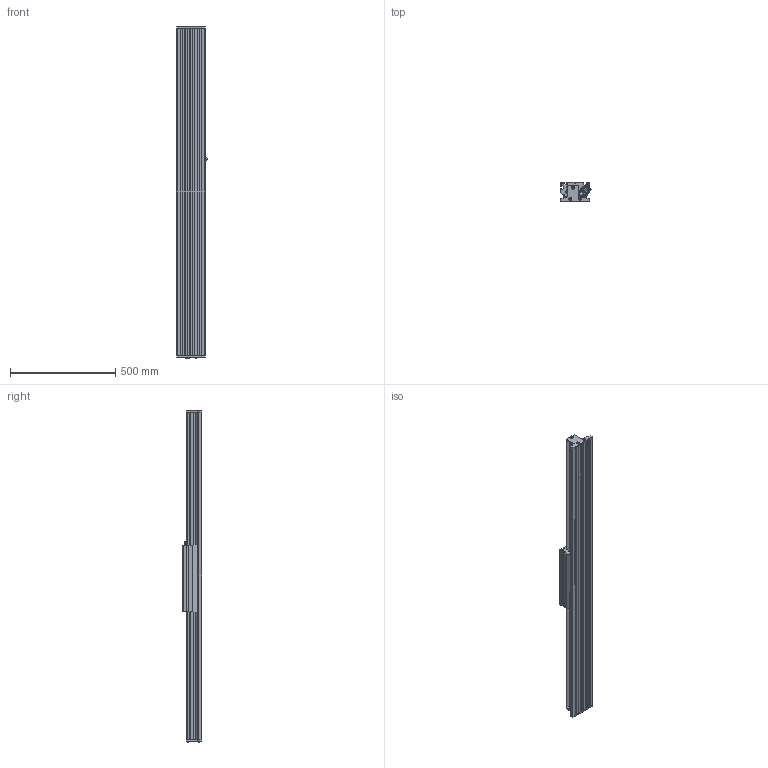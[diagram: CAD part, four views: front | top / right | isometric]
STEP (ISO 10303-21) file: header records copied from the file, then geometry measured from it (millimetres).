
FILE_DESCRIPTION (( 'STEP AP214' ), '1' );
FILE_NAME ('SINADRIVES Linear motor stage MLL20400XS-XX-1-0-ST-00-01572.STEP', '2015-07-06T11:01:52', ( 'Tecnico' ), ( '' ), 'SwSTEP 2.0', 'SolidWorks 2009', '' );
FILE_SCHEMA (( 'AUTOMOTIVE_DESIGN' ));
Length unit declared in the file: millimetre
Products named in the file (7): SINADRIVES PROFILE MLL2XXXX-1556; SINADRIVES CARRIAGE MLL20400XS-1; CARRIAGE MLL20400; Connector power+signal Y-tec 45; SINADRIVES ENDBLOCK MLL2; SINADRIVES ENDBLOCK MLL2-2; SINADRIVES Linear motor stage MLL20400XS-XX-1-0-ST-00-01572
Assembly tree (6 placements, depth 3):
  SINADRIVES Linear motor stage MLL20400XS-XX-1-0-ST-00-01572
    SINADRIVES CARRIAGE MLL20400XS-1
      Connector power+signal Y-tec 45
      CARRIAGE MLL20400
    SINADRIVES PROFILE MLL2XXXX-1556
    SINADRIVES ENDBLOCK MLL2
    SINADRIVES ENDBLOCK MLL2-2
Bounding box: 144.43 x 91 x 1580.8 mm (x, y, z)
Volume: 8013090.2 mm3; surface area: 1379671.6 mm2
Topology: 2 solids, 42 shells, 950 faces, 2640 edges, 1730 vertices
Faces by surface type: plane 445, cylinder 302, bspline 79, cone 70, torus 42, sphere 12
Entity records: 40587 total; most frequent: CARTESIAN_POINT 8656, ORIENTED_EDGE 5024, DIRECTION 4947, EDGE_CURVE 2622, AXIS2_PLACEMENT_3D 1781, VERTEX_POINT 1730, LINE 1385, VECTOR 1385
